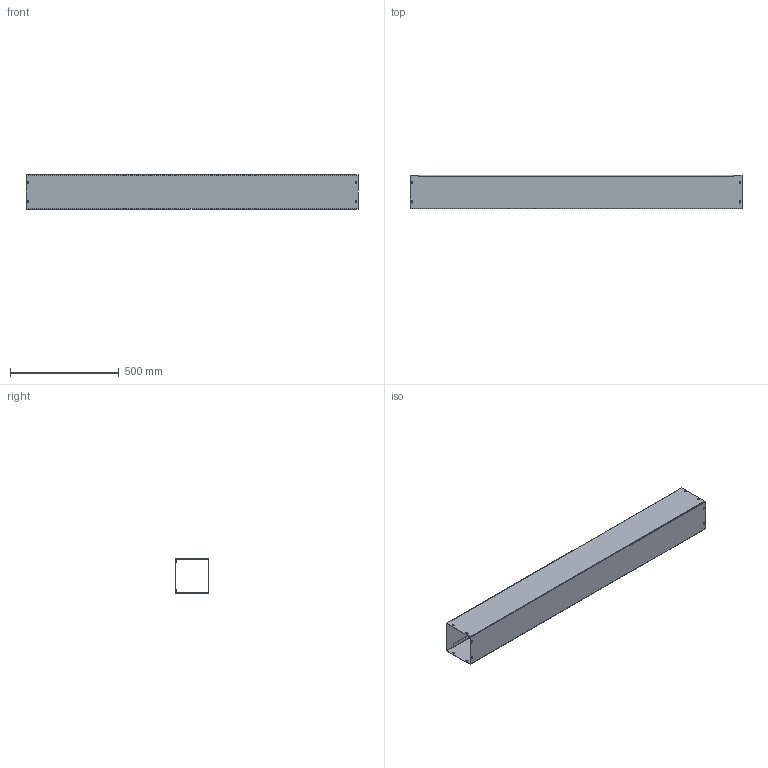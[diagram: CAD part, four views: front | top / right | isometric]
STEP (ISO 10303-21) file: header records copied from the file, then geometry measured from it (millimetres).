
FILE_DESCRIPTION (( 'STEP AP203' ), '1' );
FILE_NAME ('f66t160gv.STEP', '2008-06-26T15:02:20', ( '' ), ( '' ), 'SwSTEP 2.0', 'SolidWorks 2007', '' );
FILE_SCHEMA (( 'CONFIG_CONTROL_DESIGN' ));
Length unit declared in the file: inch
Products named in the file (3): f66t160gv; BodyWireway_16GA_6x6x60; CoverWireway_16GA_6x60
Assembly tree (2 placements, depth 2):
  f66t160gv
    CoverWireway_16GA_6x60
    BodyWireway_16GA_6x6x60
Bounding box: 1524 x 155.07 x 156.21 mm (x, y, z)
Volume: 1365763.6 mm3; surface area: 1966857.2 mm2
Topology: 2 solids, 2 shells, 214 faces, 572 edges, 372 vertices
Faces by surface type: cylinder 116, plane 98
Entity records: 7167 total; most frequent: DIRECTION 1246, CARTESIAN_POINT 1163, ORIENTED_EDGE 1144, EDGE_CURVE 572, AXIS2_PLACEMENT_3D 455, VERTEX_POINT 372, LINE 336, VECTOR 336
